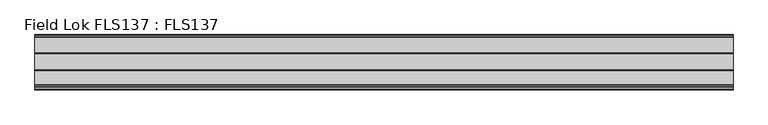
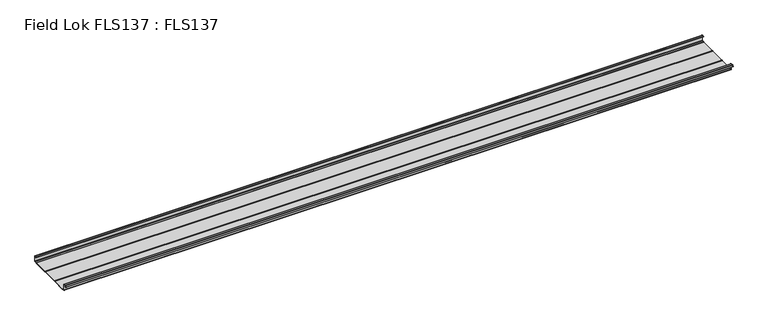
"""IFC4 building model written with IfcOpenShell, lengths in millimetres: proxy geometry, Field Lok FLS137 : FLS137."""

from ifc_helpers import new_model, si_unit, frame, origin, place, context, project, spatial, polyline, circle_curve, source, transform, mapped, element, save
from ifc_brep_helpers import plane_surface, cylinder_surface, revolved_surface, advanced_brep


def field_lok_fls137_fls137_6885bc76(model_context):
    return source(origin(), model_context, "Body", "AdvancedBrep", [
        advanced_brep(
        [(-3140.195459, 64.068853, 48.2142317), (-3140.195459, 53.8301228, 43.8681486), (-3140.195459, 51.0153311, 46.8343201), (-3140.195459, 56.9871648, 59.0783936), (-3140.195459, 57.7005826, 59.5241865), (-3140.195459, 76.7031857, 59.5241865), (-3140.195459, 78.0922482, 58.135124), (-3140.195459, 78.0922482, 4.1479031), (-3140.195459, 78.6875607, 3.5525906), (-3140.195459, 96.4521038, 3.5525906), (-3140.195459, 97.4185471, 3.1522766), (-3140.195459, 99.7297424, 0.8410814), (-3140.195459, 221.3855013, 0.8410814), (-3140.195459, 228.629891, 0.8410814), (-3140.195459, 371.7768464, 0.8410814), (-3140.195459, 379.0212362, 0.8410814), (-3140.195459, 512.7240901, 0.8410814), (-3140.195459, 514.9521555, 3.0691467), (-3140.195459, 515.9185987, 3.4694606), (-3140.195459, 531.8687208, 3.4694606), (-3140.195459, 535.0169392, 6.5567881), (-3140.195459, 535.0169392, 54.0982109), (-3140.195459, 532.8931882, 56.1746305), (-3140.195459, 521.3258435, 56.2219618), (-3140.195459, 519.6035236, 49.7941766), (-3140.195459, 518.83682, 49.9996143), (-3140.195459, 520.7167777, 57.0157118), (-3140.195459, 532.8931882, 57.0157118), (-3140.195459, 535.8106892, 54.0982109), (-3140.195459, 535.8106892, 6.5494722), (-3140.195459, 531.8687208, 2.6757106), (-3140.195459, 515.748188, 2.6757106), (-3140.195459, 513.4727913, 0.4003139), (-3140.195459, 512.5063481, 0.0), (-3140.195459, 378.5187418, 0.0), (-3140.195459, 372.2793408, 0.0), (-3140.195459, 228.1273967, 0.0), (-3140.195459, 221.8879956, 0.0), (-3140.195459, 99.9567236, 0.0), (-3140.195459, 98.9745081, 0.406847), (-3140.195459, 96.6225145, 2.7588406), (-3140.195459, 78.6875607, 2.7588406), (-3140.195459, 77.2984982, 4.1479031), (-3140.195459, 77.2984982, 58.135124), (-3140.195459, 76.7031857, 58.7304365), (-3140.195459, 57.7005826, 58.7304365), (-3140.195459, 51.7287489, 46.486363), (-3140.195459, 53.51998, 44.5987993), (-3140.195459, 63.6689976, 48.9068017), (2955.804541, 64.068853, 48.2142317), (2955.804541, 63.6689976, 48.9068017), (2955.804541, 53.51998, 44.5987993), (2955.804541, 51.7287489, 46.486363), (2955.804541, 57.7005826, 58.7304365), (2955.804541, 76.7031857, 58.7304365), (2955.804541, 77.2984982, 58.135124), (2955.804541, 77.2984982, 4.1479031), (2955.804541, 78.6875607, 2.7588406), (2955.804541, 96.6225145, 2.7588406), (2955.804541, 98.9745081, 0.406847), (2955.804541, 99.9567236, 0.0), (2955.804541, 221.8879956, 0.0), (2955.804541, 228.1273967, 0.0), (2955.804541, 372.2793408, 0.0), (2955.804541, 378.5187418, 0.0), (2955.804541, 512.5063481, 0.0), (2955.804541, 513.4727913, 0.4003139), (2955.804541, 515.748188, 2.6757106), (2955.804541, 531.8687208, 2.6757106), (2955.804541, 535.8106892, 6.5494722), (2955.804541, 535.8106892, 54.0982109), (2955.804541, 532.8931882, 57.0157118), (2955.804541, 520.7167777, 57.0157118), (2955.804541, 518.83682, 49.9996143), (2955.804541, 519.6035236, 49.7941766), (2955.804541, 521.3258435, 56.2219618), (2955.804541, 532.8931882, 56.2219618), (2955.804541, 534.9696078, 54.0982109), (2955.804541, 535.0169392, 6.5567881), (2955.804541, 531.8687208, 3.4694606), (2955.804541, 515.9185987, 3.4694606), (2955.804541, 514.9521555, 3.0691467), (2955.804541, 512.7240901, 0.8410814), (2955.804541, 379.0212362, 0.8410814), (2955.804541, 371.7768464, 0.8410814), (2955.804541, 228.629891, 0.8410814), (2955.804541, 221.3855013, 0.8410814), (2955.804541, 99.7297424, 0.8410814), (2955.804541, 97.4185471, 3.1522766), (2955.804541, 96.4521038, 3.5525906), (2955.804541, 78.6875607, 3.5525906), (2955.804541, 78.0922482, 4.1479031), (2955.804541, 78.0922482, 58.135124), (2955.804541, 76.7031857, 59.5241865), (2955.804541, 57.7005826, 59.5241865), (2955.804541, 56.9871648, 59.0783936), (2955.804541, 51.0153311, 46.8343201), (2955.804541, 53.8301228, 43.8681486)],
        [
            (0, 1),
            (1, 2, circle_curve(frame((-3140.195459, 52.97723, 45.8774381), z_axis=(-1.0, 0.0, 0.0), x_axis=(0.0, 1.0, 0.0)), 2.1828125)),
            (2, 3),
            (3, 4, circle_curve(frame((-3140.195459, 57.7005826, 58.7304365), z_axis=(-1.0, 0.0, 0.0), x_axis=(0.0, 1.0, 0.0)), 0.79375)),
            (4, 5),
            (5, 6, circle_curve(frame((-3140.195459, 76.7031857, 58.135124), z_axis=(-1.0, 0.0, 0.0), x_axis=(0.0, 1.0, 0.0)), 1.3890625)),
            (6, 7),
            (7, 8, circle_curve(frame((-3140.195459, 78.6875607, 4.1479031), z_axis=(1.0, 0.0, 0.0), x_axis=(0.0, 1.0, 0.0)), 0.5953125)),
            (8, 9),
            (9, 10, circle_curve(frame((-3140.195459, 96.4521038, 2.1858334), z_axis=(-1.0, 0.0, 0.0), x_axis=(0.0, 1.0, 0.0)), 1.3667572)),
            (10, 11),
            (11, 12),
            (12, 13, circle_curve(frame((-3140.195459, 225.0076962, -1.0449846), z_axis=(-1.0, 0.0, 0.0), x_axis=(0.0, 1.0, 0.0)), 4.0838145)),
            (13, 14),
            (14, 15, circle_curve(frame((-3140.195459, 375.3990413, -1.0449846), z_axis=(-1.0, 0.0, 0.0), x_axis=(0.0, 1.0, 0.0)), 4.0838145)),
            (15, 16),
            (16, 17),
            (17, 18, circle_curve(frame((-3140.195459, 515.9185987, 2.1027034), z_axis=(-1.0, 0.0, 0.0), x_axis=(0.0, 1.0, 0.0)), 1.3667572)),
            (18, 19),
            (19, 20, circle_curve(frame((-3140.195459, 531.8687208, 6.6182795), z_axis=(1.0, 0.0, 0.0), x_axis=(0.0, 1.0, 0.0)), 3.1488189)),
            (20, 21),
            (21, 22, circle_curve(frame((-3140.195459, 532.8931882, 54.0982109), z_axis=(1.0, 0.0, 0.0), x_axis=(0.0, 1.0, 0.0)), 2.0764196)),
            (22, 23),
            (23, 24),
            (24, 25),
            (25, 26),
            (26, 27),
            (27, 28, circle_curve(frame((-3140.195459, 532.8931882, 54.0982109), z_axis=(-1.0, 0.0, 0.0), x_axis=(0.0, 1.0, 0.0)), 2.917501)),
            (28, 29),
            (29, 30, circle_curve(frame((-3140.195459, 531.8687208, 6.6182795), z_axis=(-1.0, 0.0, 0.0), x_axis=(0.0, 1.0, 0.0)), 3.9425689)),
            (30, 31),
            (31, 32),
            (32, 33, circle_curve(frame((-3140.195459, 512.5063481, 1.3667572), z_axis=(-1.0, 0.0, 0.0), x_axis=(0.0, 1.0, 0.0)), 1.3667572)),
            (33, 34),
            (34, 35, circle_curve(frame((-3140.195459, 375.3990413, -1.0449846), z_axis=(1.0, 0.0, 0.0), x_axis=(0.0, 1.0, 0.0)), 3.2900645)),
            (35, 36),
            (36, 37, circle_curve(frame((-3140.195459, 225.0076962, -1.0449846), z_axis=(1.0, 0.0, 0.0), x_axis=(0.0, 1.0, 0.0)), 3.2900645)),
            (37, 38),
            (38, 39, circle_curve(frame((-3140.195459, 99.9567236, 1.3890625), z_axis=(-1.0, 0.0, 0.0), x_axis=(0.0, 1.0, 0.0)), 1.3890625)),
            (39, 40),
            (40, 41),
            (41, 42, circle_curve(frame((-3140.195459, 78.6875607, 4.1479031), z_axis=(-1.0, 0.0, 0.0), x_axis=(0.0, 1.0, 0.0)), 1.3890625)),
            (42, 43),
            (43, 44, circle_curve(frame((-3140.195459, 76.7031857, 58.135124), z_axis=(1.0, 0.0, 0.0), x_axis=(0.0, 1.0, 0.0)), 0.5953125)),
            (44, 45),
            (45, 46),
            (46, 47, circle_curve(frame((-3140.195459, 52.97723, 45.8774381), z_axis=(1.0, 0.0, 0.0), x_axis=(0.0, 1.0, 0.0)), 1.3890625)),
            (47, 48),
            (48, 0),
            (49, 50),
            (50, 51),
            (51, 52, circle_curve(frame((2955.804541, 52.97723, 45.8774381), z_axis=(-1.0, 0.0, 0.0), x_axis=(0.0, 1.0, 0.0)), 1.3890625)),
            (52, 53),
            (53, 54),
            (54, 55, circle_curve(frame((2955.804541, 76.7031857, 58.135124), z_axis=(-1.0, 0.0, 0.0), x_axis=(0.0, 1.0, 0.0)), 0.5953125)),
            (55, 56),
            (56, 57, circle_curve(frame((2955.804541, 78.6875607, 4.1479031), z_axis=(1.0, 0.0, 0.0), x_axis=(0.0, 1.0, 0.0)), 1.3890625)),
            (57, 58),
            (58, 59),
            (59, 60, circle_curve(frame((2955.804541, 99.9567236, 1.3890625), z_axis=(1.0, 0.0, 0.0), x_axis=(0.0, 1.0, 0.0)), 1.3890625)),
            (60, 61),
            (61, 62, circle_curve(frame((2955.804541, 225.0076962, -1.0449846), z_axis=(-1.0, 0.0, 0.0), x_axis=(0.0, 1.0, 0.0)), 3.2900645)),
            (62, 63),
            (63, 64, circle_curve(frame((2955.804541, 375.3990413, -1.0449846), z_axis=(-1.0, 0.0, 0.0), x_axis=(0.0, 1.0, 0.0)), 3.2900645)),
            (64, 65),
            (65, 66, circle_curve(frame((2955.804541, 512.5063481, 1.3667572), z_axis=(1.0, 0.0, 0.0), x_axis=(0.0, 1.0, 0.0)), 1.3667572)),
            (66, 67),
            (67, 68),
            (68, 69, circle_curve(frame((2955.804541, 531.8687208, 6.6182795), z_axis=(1.0, 0.0, 0.0), x_axis=(0.0, 1.0, 0.0)), 3.9425689)),
            (69, 70),
            (70, 71, circle_curve(frame((2955.804541, 532.8931882, 54.0982109), z_axis=(1.0, 0.0, 0.0), x_axis=(0.0, 1.0, 0.0)), 2.917501)),
            (71, 72),
            (72, 73),
            (73, 74),
            (74, 75),
            (75, 76),
            (76, 77, circle_curve(frame((2955.804541, 532.8931882, 54.0982109), z_axis=(-1.0, 0.0, 0.0), x_axis=(0.0, 1.0, 0.0)), 2.0764196)),
            (77, 78),
            (78, 79, circle_curve(frame((2955.804541, 531.8687208, 6.6182795), z_axis=(-1.0, 0.0, 0.0), x_axis=(0.0, 1.0, 0.0)), 3.1488189)),
            (79, 80),
            (80, 81, circle_curve(frame((2955.804541, 515.9185987, 2.1027034), z_axis=(1.0, 0.0, 0.0), x_axis=(0.0, 1.0, 0.0)), 1.3667572)),
            (81, 82),
            (82, 83),
            (83, 84, circle_curve(frame((2955.804541, 375.3990413, -1.0449846), z_axis=(1.0, 0.0, 0.0), x_axis=(0.0, 1.0, 0.0)), 4.0838145)),
            (84, 85),
            (85, 86, circle_curve(frame((2955.804541, 225.0076962, -1.0449846), z_axis=(1.0, 0.0, 0.0), x_axis=(0.0, 1.0, 0.0)), 4.0838145)),
            (86, 87),
            (87, 88),
            (88, 89, circle_curve(frame((2955.804541, 96.4521038, 2.1858334), z_axis=(1.0, 0.0, 0.0), x_axis=(0.0, 1.0, 0.0)), 1.3667572)),
            (89, 90),
            (90, 91, circle_curve(frame((2955.804541, 78.6875607, 4.1479031), z_axis=(-1.0, 0.0, 0.0), x_axis=(0.0, 1.0, 0.0)), 0.5953125)),
            (91, 92),
            (92, 93, circle_curve(frame((2955.804541, 76.7031857, 58.135124), z_axis=(1.0, 0.0, 0.0), x_axis=(0.0, 1.0, 0.0)), 1.3890625)),
            (93, 94),
            (94, 95, circle_curve(frame((2955.804541, 57.7005826, 58.7304365), z_axis=(1.0, 0.0, 0.0), x_axis=(0.0, 1.0, 0.0)), 0.79375)),
            (95, 96),
            (96, 97, circle_curve(frame((2955.804541, 52.97723, 45.8774381), z_axis=(1.0, 0.0, 0.0), x_axis=(0.0, 1.0, 0.0)), 2.1828125)),
            (97, 49),
            (42, 56),
            (55, 43),
            (13, 85),
            (84, 14),
            (15, 83),
            (82, 16),
            (9, 89),
            (88, 10),
            (39, 59),
            (58, 40),
            (3, 95),
            (94, 4),
            (37, 61),
            (60, 38),
            (25, 73),
            (72, 26),
            (32, 66),
            (65, 33),
            (17, 81),
            (80, 18),
            (71, 27),
            (64, 34),
            (35, 63),
            (62, 36),
            (12, 86),
            (87, 11),
            (24, 74),
            (8, 90),
            (28, 70),
            (69, 29),
            (68, 30),
            (20, 78),
            (77, 21),
            (31, 67),
            (79, 19),
            (76, 22),
            (45, 53),
            (52, 46),
            (51, 47),
            (1, 97),
            (96, 2),
            (50, 48),
            (57, 41),
            (23, 75),
            (49, 0),
            (6, 92),
            (91, 7),
            (5, 93),
            (54, 44),
        ],
        [
            plane_surface(frame((-3140.195459, 51.0153311, 0.0), z_axis=(-1.0, 0.0, 0.0), x_axis=(0.0, 0.0, 1.0))),
            plane_surface(frame((2955.804541, 51.0153311, 0.0), z_axis=(1.0, 0.0, 0.0), x_axis=(0.0, 0.0, 1.0))),
            plane_surface(frame((-3140.195459, 77.2984982, 4.1479031), z_axis=(0.0, -1.0, 0.0), x_axis=(1.0, 0.0, 0.0))),
            plane_surface(frame((-3140.195459, 228.629891, 0.8410814), z_axis=(0.0, 0.0, 1.0), x_axis=(1.0, 0.0, 0.0))),
            plane_surface(frame((-3140.195459, 379.0212362, 0.8410814), z_axis=(0.0, 0.0, 1.0), x_axis=(1.0, 0.0, 0.0))),
            cylinder_surface(frame((-3140.195459, 96.4521038, 2.1858334), z_axis=(-1.0, 0.0, 0.0), x_axis=(0.0, 1.0, 0.0)), 1.3667572),
            plane_surface(frame((-3140.195459, 98.9745081, 0.406847), z_axis=(0.0, -0.7071067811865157, -0.7071067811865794), x_axis=(1.0, 0.0, 0.0))),
            cylinder_surface(frame((-3140.195459, 57.7005826, 58.7304365), z_axis=(-1.0, 0.0, 0.0), x_axis=(0.0, 1.0, 0.0)), 0.79375),
            plane_surface(frame((-3140.195459, 221.8879956, 0.0), z_axis=(0.0, 0.0, -1.0), x_axis=(1.0, 0.0, 0.0))),
            cylinder_surface(frame((-3140.195459, 375.3990413, -1.0449846), z_axis=(-1.0, 0.0, 0.0), x_axis=(0.0, 1.0, 0.0)), 4.0838145),
            plane_surface(frame((-3140.195459, 518.83682, 49.9996143), z_axis=(0.0, -0.9659258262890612, 0.25881904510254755), x_axis=(1.0, 0.0, 0.0))),
            cylinder_surface(frame((-3140.195459, 512.5063481, 1.3667572), z_axis=(-1.0, 0.0, 0.0), x_axis=(0.0, 1.0, 0.0)), 1.3667572),
            cylinder_surface(frame((-3140.195459, 515.9185987, 2.1027034), z_axis=(-1.0, 0.0, 0.0), x_axis=(0.0, 1.0, 0.0)), 1.3667572),
            plane_surface(frame((-3140.195459, 520.7167777, 57.0157118), z_axis=(0.0, 0.0, 1.0), x_axis=(1.0, 0.0, 0.0))),
            plane_surface(frame((-3140.195459, 512.5063481, 0.0), z_axis=(0.0, 0.0, -1.0), x_axis=(1.0, 0.0, 0.0))),
            plane_surface(frame((-3140.195459, 372.2793408, 0.0), z_axis=(0.0, 0.0, -1.0), x_axis=(1.0, 0.0, 0.0))),
            cylinder_surface(frame((-3140.195459, 225.0076962, -1.0449846), z_axis=(-1.0, 0.0, 0.0), x_axis=(0.0, 1.0, 0.0)), 4.0838145),
            plane_surface(frame((-3140.195459, 97.4185471, 3.1522766), z_axis=(0.0, 0.7071067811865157, 0.7071067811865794), x_axis=(1.0, 0.0, 0.0))),
            plane_surface(frame((-3140.195459, 519.6035236, 49.7941766), z_axis=(0.0, -0.2588190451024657, -0.9659258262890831), x_axis=(1.0, 0.0, 0.0))),
            plane_surface(frame((-3140.195459, 78.6875607, 3.5525906), z_axis=(0.0, 0.0, 1.0), x_axis=(1.0, 0.0, 0.0))),
            plane_surface(frame((-3140.195459, 99.7297424, 0.8410814), z_axis=(0.0, 0.0, 1.0), x_axis=(1.0, 0.0, 0.0))),
            plane_surface(frame((-3140.195459, 535.8106892, 54.0982109), z_axis=(0.0, 1.0, 0.0), x_axis=(1.0, 0.0, 0.0))),
            plane_surface(frame((-3140.195459, 512.7240901, 0.8410814), z_axis=(0.0, -0.7071067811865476, 0.7071067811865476), x_axis=(1.0, 0.0, 0.0))),
            cylinder_surface(frame((-3140.195459, 531.8687208, 6.6182795), z_axis=(-1.0, 0.0, 0.0), x_axis=(0.0, 1.0, 0.0)), 3.9425689),
            plane_surface(frame((-3140.195459, 535.0169392, 6.5567881), z_axis=(0.0, -1.0, 0.0), x_axis=(1.0, 0.0, 0.0))),
            plane_surface(frame((-3140.195459, 515.748188, 2.6757106), z_axis=(0.0, 0.7071067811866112, -0.7071067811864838), x_axis=(1.0, 0.0, 0.0))),
            plane_surface(frame((-3140.195459, 531.8687208, 2.6757106), z_axis=(0.0, 0.0, -1.0), x_axis=(1.0, 0.0, 0.0))),
            plane_surface(frame((-3140.195459, 515.9185987, 3.4694606), z_axis=(0.0, 0.0, 1.0), x_axis=(1.0, 0.0, 0.0))),
            revolved_surface(polyline([(2955.804541, 534.9696078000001, 54.0982109), (-3140.195459, 534.9696078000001, 54.0982109)]), (-3140.195459, 532.8931882, 54.0982109), (1.0, 0.0, 0.0)),
            cylinder_surface(frame((-3140.195459, 99.9567236, 1.3890625), z_axis=(-1.0, 0.0, 0.0), x_axis=(0.0, 1.0, 0.0)), 1.3890625),
            plane_surface(frame((-3140.195459, 57.7005826, 58.7304365), z_axis=(0.0, 0.8987940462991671, -0.4383711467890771), x_axis=(1.0, 0.0, 0.0))),
            revolved_surface(polyline([(2955.804541, 54.3662925, 45.8774381), (-3140.195459, 54.3662925, 45.8774381)]), (-3140.195459, 52.97723, 45.8774381), (1.0, 0.0, 0.0)),
            cylinder_surface(frame((-3140.195459, 52.97723, 45.8774381), z_axis=(-1.0, 0.0, 0.0), x_axis=(0.0, 1.0, 0.0)), 2.1828125),
            plane_surface(frame((-3140.195459, 53.51998, 44.5987993), z_axis=(0.0, -0.39073112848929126, 0.9205048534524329), x_axis=(1.0, 0.0, 0.0))),
            plane_surface(frame((-3140.195459, 96.6225145, 2.7588406), z_axis=(0.0, 0.0, -1.0), x_axis=(1.0, 0.0, 0.0))),
            plane_surface(frame((-3140.195459, 521.3258435, 56.2219618), z_axis=(0.0, 0.9659258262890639, -0.25881904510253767), x_axis=(1.0, 0.0, 0.0))),
            revolved_surface(polyline([(2955.804541, 535.0175397, 6.6182795), (-3140.195459, 535.0175397, 6.6182795)]), (-3140.195459, 531.8687208, 6.6182795), (1.0, 0.0, 0.0)),
            plane_surface(frame((-3140.195459, 63.6689976, 48.9068017), z_axis=(0.0, 0.8660254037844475, 0.4999999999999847), x_axis=(1.0, 0.0, 0.0))),
            cylinder_surface(frame((-3140.195459, 532.8931882, 54.0982109), z_axis=(-1.0, 0.0, 0.0), x_axis=(0.0, 1.0, 0.0)), 2.917501),
            plane_surface(frame((-3140.195459, 532.8931882, 56.2219618), z_axis=(0.0, 0.0, -1.0), x_axis=(1.0, 0.0, 0.0))),
            plane_surface(frame((-3140.195459, 78.0922482, 58.135124), z_axis=(0.0, 1.0, 0.0), x_axis=(1.0, 0.0, 0.0))),
            cylinder_surface(frame((-3140.195459, 76.7031857, 58.135124), z_axis=(-1.0, 0.0, 0.0), x_axis=(0.0, 1.0, 0.0)), 1.3890625),
            revolved_surface(polyline([(2955.804541, 79.28287320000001, 4.1479031), (-3140.195459, 79.28287320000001, 4.1479031)]), (-3140.195459, 78.6875607, 4.1479031), (1.0, 0.0, 0.0)),
            revolved_surface(polyline([(2955.804541, 77.29849820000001, 58.135124), (-3140.195459, 77.29849820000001, 58.135124)]), (-3140.195459, 76.7031857, 58.135124), (1.0, 0.0, 0.0)),
            cylinder_surface(frame((-3140.195459, 78.6875607, 4.1479031), z_axis=(-1.0, 0.0, 0.0), x_axis=(0.0, 1.0, 0.0)), 1.3890625),
            plane_surface(frame((-3140.195459, 76.7031857, 58.7304365), z_axis=(0.0, 0.0, -1.0), x_axis=(1.0, 0.0, 0.0))),
            revolved_surface(polyline([(2955.804541, 228.2977607, -1.0449846), (-3140.195459, 228.2977607, -1.0449846)]), (-3140.195459, 225.0076962, -1.0449846), (1.0, 0.0, 0.0)),
            revolved_surface(polyline([(2955.804541, 378.68910580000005, -1.0449846), (-3140.195459, 378.68910580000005, -1.0449846)]), (-3140.195459, 375.3990413, -1.0449846), (1.0, 0.0, 0.0)),
            plane_surface(frame((-3140.195459, 51.0153311, 46.8343201), z_axis=(0.0, -0.8987940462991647, 0.4383711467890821), x_axis=(1.0, 0.0, 0.0))),
            plane_surface(frame((-3140.195459, 64.068853, 48.2142317), z_axis=(0.0, 0.39073112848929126, -0.9205048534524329), x_axis=(1.0, 0.0, 0.0))),
            plane_surface(frame((-3140.195459, 57.7005826, 59.5241865), z_axis=(0.0, 0.0, 1.0), x_axis=(1.0, 0.0, 0.0))),
        ],
        [
            (0, [[1, 2, 3, 4, 5, 6, 7, 8, 9, 10, 11, 12, 13, 14, 15, 16, 17, 18, 19, 20, 21, 22, 23, 24, 25, 26, 27, 28, 29, 30, 31, 32, 33, 34, 35, 36, 37, 38, 39, 40, 41, 42, 43, 44, 45, 46, 47, 48, 49]]),
            (1, [[50, 51, 52, 53, 54, 55, 56, 57, 58, 59, 60, 61, 62, 63, 64, 65, 66, 67, 68, 69, 70, 71, 72, 73, 74, 75, 76, 77, 78, 79, 80, 81, 82, 83, 84, 85, 86, 87, 88, 89, 90, 91, 92, 93, 94, 95, 96, 97, 98]]),
            (2, [[-43, 99, -56, 100]]),
            (3, [[-14, 101, -85, 102]]),
            (4, [[-16, 103, -83, 104]]),
            (5, [[-10, 105, -89, 106]]),
            (6, [[-40, 107, -59, 108]]),
            (7, [[-4, 109, -95, 110]]),
            (8, [[-38, 111, -61, 112]]),
            (9, [[-15, -102, -84, -103]]),
            (10, [[-26, 113, -73, 114]]),
            (11, [[-33, 115, -66, 116]]),
            (12, [[-18, 117, -81, 118]]),
            (13, [[-27, -114, -72, 119]]),
            (14, [[-34, -116, -65, 120]]),
            (15, [[-36, 121, -63, 122]]),
            (16, [[-13, 123, -86, -101]]),
            (17, [[-11, -106, -88, 124]]),
            (18, [[-25, 125, -74, -113]]),
            (19, [[-9, 126, -90, -105]]),
            (20, [[-12, -124, -87, -123]]),
            (21, [[-29, 127, -70, 128]]),
            (22, [[-17, -104, -82, -117]]),
            (23, [[-30, -128, -69, 129]]),
            (24, [[-21, 130, -78, 131]]),
            (25, [[-32, 132, -67, -115]]),
            (26, [[-31, -129, -68, -132]]),
            (27, [[-19, -118, -80, 133]]),
            (28, [[-22, -131, -77, 134]]),
            (29, [[-39, -112, -60, -107]]),
            (30, [[-46, 135, -53, 136]]),
            (31, [[-47, -136, -52, 137]]),
            (32, [[-2, 138, -97, 139]]),
            (33, [[-48, -137, -51, 140]]),
            (34, [[-41, -108, -58, 141]]),
            (35, [[-24, 142, -75, -125]]),
            (36, [[-20, -133, -79, -130]]),
            (37, [[-49, -140, -50, 143]]),
            (38, [[-28, -119, -71, -127]]),
            (39, [[-23, -134, -76, -142]]),
            (40, [[-7, 144, -92, 145]]),
            (41, [[-6, 146, -93, -144]]),
            (42, [[-8, -145, -91, -126]]),
            (43, [[-44, -100, -55, 147]]),
            (44, [[-42, -141, -57, -99]]),
            (45, [[-45, -147, -54, -135]]),
            (46, [[-37, -122, -62, -111]]),
            (47, [[-35, -120, -64, -121]]),
            (48, [[-3, -139, -96, -109]]),
            (49, [[-1, -143, -98, -138]]),
            (50, [[-5, -110, -94, -146]]),
        ],
    ),
    ])


if __name__ == "__main__":
    model = new_model("IFC4")
    model_context = context("Model", 3, world=origin())
    ifc_project = project(units=[si_unit("LENGTHUNIT", "METRE", prefix="MILLI")], contexts=[model_context])
    site = spatial("IfcSite", under=ifc_project)
    building = spatial("IfcBuilding", under=site)
    placement = place(None, origin())
    field_lok_fls137_fls137_shape = field_lok_fls137_fls137_6885bc76(model_context)
    element("IfcBuildingElementProxy", 1, Name="Field Lok FLS137 : FLS137", ObjectType="Field Lok FLS137 : FLS137", at=placement, inside=building, context=model_context, shape_type="MappedRepresentation", body=[
        mapped(field_lok_fls137_fls137_shape, transform((0.0, 0.0, 0.0), x_axis=(1.0, 0.0, 0.0), y_axis=(0.0, 1.0, 0.0), z_axis=(0.0, 0.0, 1.0))),
    ])
    save(model, "model.ifc")
